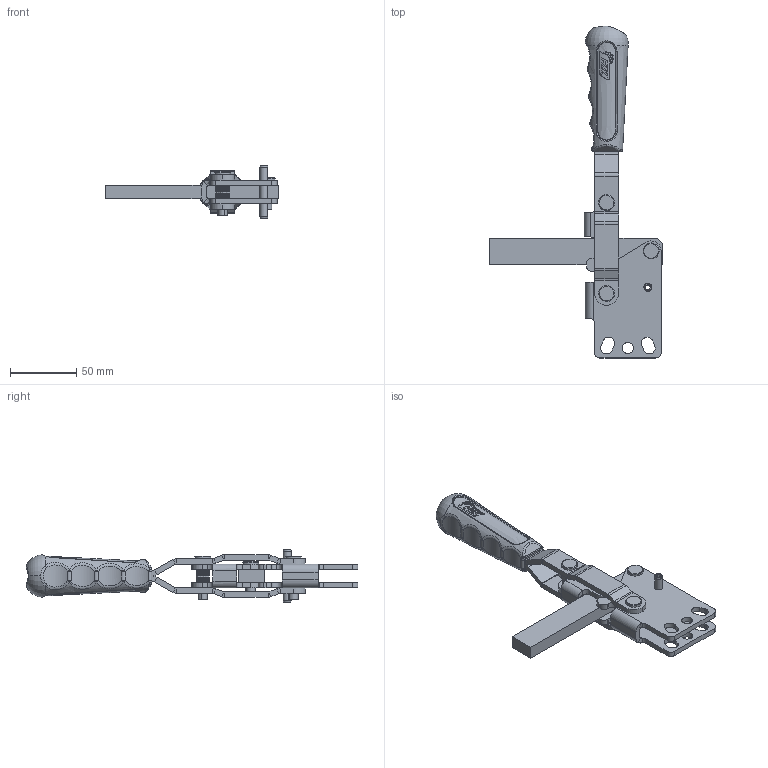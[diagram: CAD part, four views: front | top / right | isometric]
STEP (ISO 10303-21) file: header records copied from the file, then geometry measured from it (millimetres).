
FILE_DESCRIPTION (( 'STEP AP214' ), '1' );
FILE_NAME ('203_B.STEP', '2024-09-09T16:28:06', ( '' ), ( '' ), 'SwSTEP 2.0', 'SolidWorks 2023', '' );
FILE_SCHEMA (( 'AUTOMOTIVE_DESIGN' ));
Length unit declared in the file: millimetre
Products named in the file (11): FZK_203_B_02_00; 203_B; TTMK_03_00; FZK_203_B_04_00; FZK_203_B_01_00_YENI; FZK_203_B_03_00; FZK_203_B_06_00; Ø6x40 YARIKLI PİM; FZK_203_B_03A_00; FZK_203_B_05_00; FZK_203_B_07_00
Assembly tree (14 placements, depth 3):
  203_B
    FZK_203_B_04_00  x2
    FZK_203_B_07_00  x2
    Ø6x40 YARIKLI PİM
    FZK_203_B_06_00  x2
    FZK_203_B_02_00
    FZK_203_B_01_00_YENI
    TTMK_03_00
    FZK_203_B_05_00
    FZK_203_B_03_00
      FZK_203_B_03A_00  x2
Bounding box: 130 x 249.67 x 40 mm (x, y, z)
Volume: 141401 mm3; surface area: 70213.3 mm2
Topology: 13 solids, 13 shells, 1225 faces, 3343 edges, 2147 vertices
Faces by surface type: cylinder 777, bspline 217, plane 162, cone 43, sphere 20, torus 6
Entity records: 43100 total; most frequent: CARTESIAN_POINT 24867, ORIENTED_EDGE 4438, DIRECTION 2603, EDGE_CURVE 2219, VERTEX_POINT 1429, B_SPLINE_CURVE_WITH_KNOTS 1208, AXIS2_PLACEMENT_3D 979, EDGE_LOOP 884
